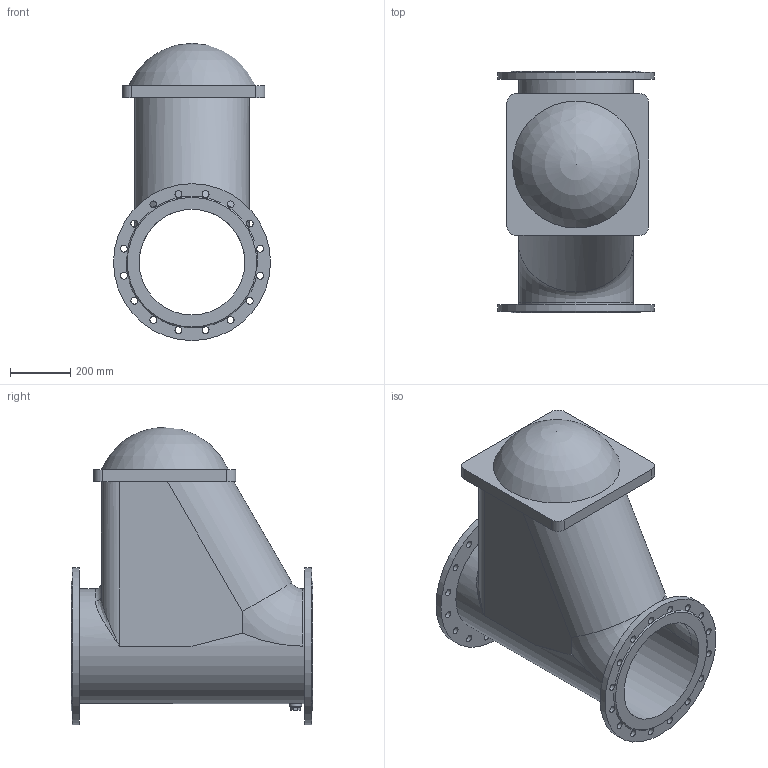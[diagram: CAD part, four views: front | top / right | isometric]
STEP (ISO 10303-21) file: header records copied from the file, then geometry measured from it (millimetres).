
FILE_DESCRIPTION(('STEP AP203'), '1');
FILE_NAME('Êëàïàí îáðàòíûé øàðîâîé ôëàíöåâûé 012F.Z DN350 PN10', '', ('UNSPECIFIED'), ('UNSPECIFIED'), 'ASCON STEP Converter 1.6', 'ASCON Math Kernel', '');
FILE_SCHEMA(('CONFIG_CONTROL_DESIGN'));
Length unit declared in the file: millimetre
Bounding box: 520 x 800 x 985 mm (x, y, z)
Volume: 90796031.7 mm3; surface area: 3624810.1 mm2
Topology: 1 solids, 1 shells, 87 faces, 283 edges, 176 vertices
Faces by surface type: cylinder 47, plane 32, torus 3, bspline 2, cone 2, sphere 1
Full cylindrical faces by diameter (mm): 23 x32, 32 x1, 40 x1, 350 x1, 380 x1, 520 x2
Entity records: 4274 total; most frequent: CARTESIAN_POINT 999, DIRECTION 543, ORIENTED_EDGE 474, AXIS2_PLACEMENT_3D 243, EDGE_CURVE 237, EDGE_LOOP 204, VERTEX_POINT 175, CIRCLE 157
